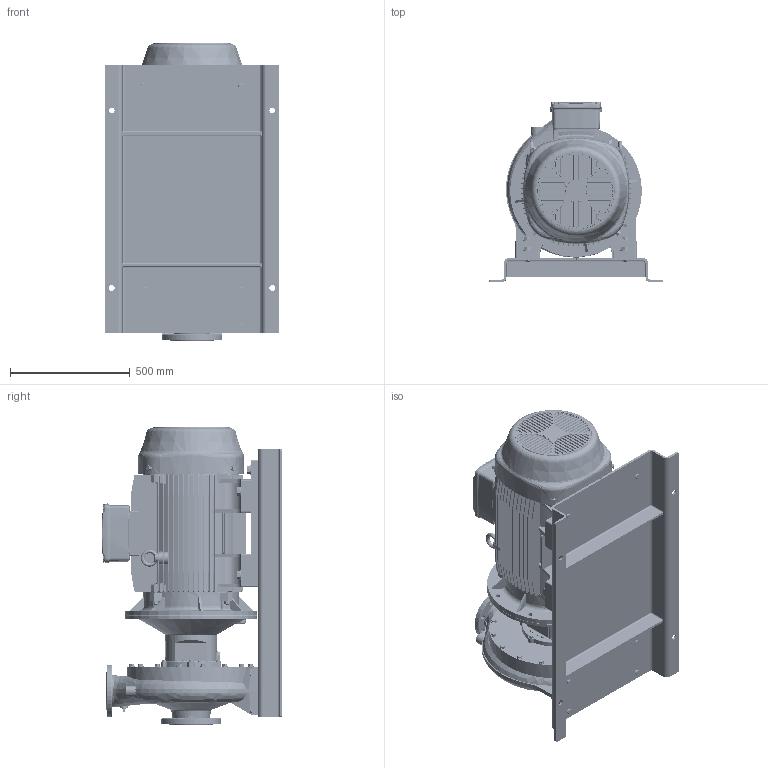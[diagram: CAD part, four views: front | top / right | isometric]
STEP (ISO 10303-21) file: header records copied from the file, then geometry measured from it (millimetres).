
FILE_DESCRIPTION (( 'STEP AP214' ), '1' );
FILE_NAME ('GSD4 100-400_55_(250SM)_W21_BP.STEP', '2026-05-08T05:05:48', ( '' ), ( '' ), 'SwSTEP 2.0', 'SolidWorks 2024', '' );
FILE_SCHEMA (( 'AUTOMOTIVE_DESIGN' ));
Length unit declared in the file: millimetre
Products named in the file (11): N9S4 GSDA-944 F1-1832976-00; 250S_M4P IE3_W21T_B35; 100-400-250S_M_ﾃﾞﾌｫﾙﾄ; Parametric bolt_SFT-A417B; 100x30 - CGSDA-5291; Parametric Flat Washer_M20; Parametric bolt and washer_SFT-A403B; A407B Bolt_407; Parametric bolt and washer_SFT-A417B; GSD4 100-400_55_(250SM)_W21_BP; Parametric bolt_SFT-A403B
Assembly tree (21 placements, depth 3):
  GSD4 100-400_55_(250SM)_W21_BP
    100-400-250S_M_ﾃﾞﾌｫﾙﾄ
    250S_M4P IE3_W21T_B35
    N9S4 GSDA-944 F1-1832976-00
    100x30 - CGSDA-5291  x2
    Parametric bolt and washer_SFT-A403B  x4
      Parametric bolt_SFT-A403B
      Parametric Flat Washer_M20
    Parametric bolt and washer_SFT-A417B  x4
      Parametric bolt_SFT-A417B
      Parametric Flat Washer_M20
    A407B Bolt_407  x2
    Parametric Flat Washer_M20  x2
Bounding box: 730 x 753 x 1240.5 mm (x, y, z)
Volume: 177266509.9 mm3; surface area: 7995965.2 mm2
Topology: 33 solids, 38 shells, 4335 faces, 11384 edges, 7258 vertices
Faces by surface type: plane 1720, cylinder 1499, cone 517, bspline 315, torus 266, sphere 18
Entity records: 171765 total; most frequent: CARTESIAN_POINT 82898, ORIENTED_EDGE 19554, DIRECTION 17481, EDGE_CURVE 9777, AXIS2_PLACEMENT_3D 6385, VERTEX_POINT 6219, VECTOR 4711, LINE 4711
